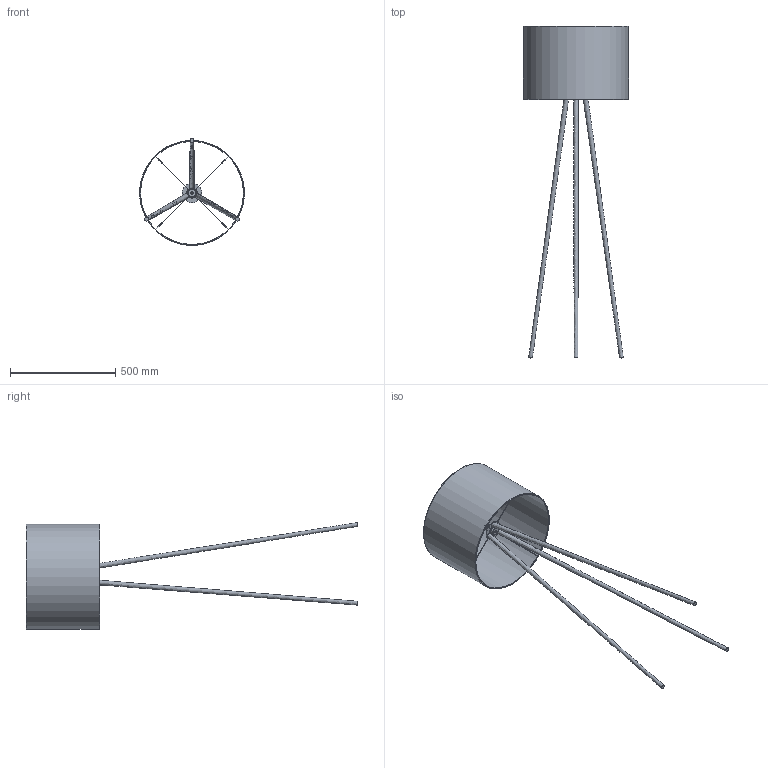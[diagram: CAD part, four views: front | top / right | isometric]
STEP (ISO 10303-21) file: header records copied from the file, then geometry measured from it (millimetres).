
FILE_DESCRIPTION(/* description */ (''),/* implementation_level */ '2;1');
FILE_NAME(/* name */ 'C:/Users/Jakub Wieczorkowski/Desktop/STEP/TERCINO_5533 v5 v2 v1.step',/* time_stamp */ '2022-02-22T08:26:14+01:00',/* author */ (''),/* organization */ (''),/* preprocessor_version */ 'ST-DEVELOPER v18.1',/* originating_system */ 'Autodesk Translation Framework v10.13.0.1454',/* authorisation */ '');
FILE_SCHEMA (('AUTOMOTIVE_DESIGN { 1 0 10303 214 3 1 1 }'));
Length unit declared in the file: millimetre
Products named in the file (3): TERCINO_5533 v5 v2; MOCOWANIE_JUTA3 v1; TERCINO_KLOSZ_5533 v5
Assembly tree (2 placements, depth 2):
  TERCINO_5533 v5 v2
    MOCOWANIE_JUTA3 v1
    TERCINO_KLOSZ_5533 v5
Bounding box: 500 x 1579.85 x 509 mm (x, y, z)
Volume: 2517520.4 mm3; surface area: 1426707.9 mm2
Topology: 21 solids, 21 shells, 115 faces, 208 edges, 140 vertices
Faces by surface type: cylinder 45, plane 43, torus 17, bspline 10
Full cylindrical faces by diameter (mm): 3 x12, 11 x3, 11.52 x1, 29.76 x1, 37.394 x10, 38 x1, 40.28 x1, 40.32 x1, 43.2 x3, 49.5 x1, 93 x1, 490 x2, 496 x1, 500 x1
Entity records: 13309 total; most frequent: CARTESIAN_POINT 10974, DIRECTION 480, ORIENTED_EDGE 416, AXIS2_PLACEMENT_3D 220, EDGE_CURVE 208, VERTEX_POINT 140, EDGE_LOOP 128, FACE_OUTER_BOUND 115
